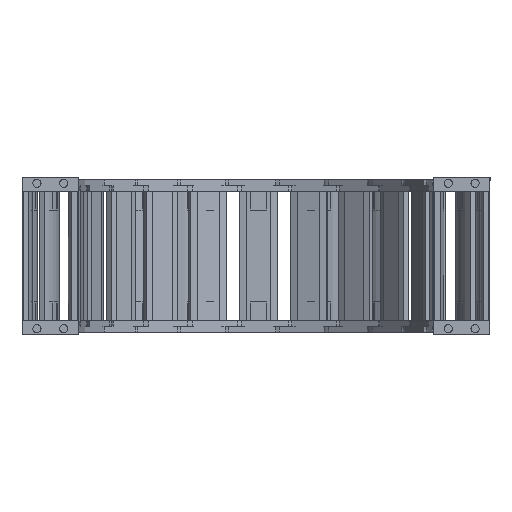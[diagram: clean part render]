
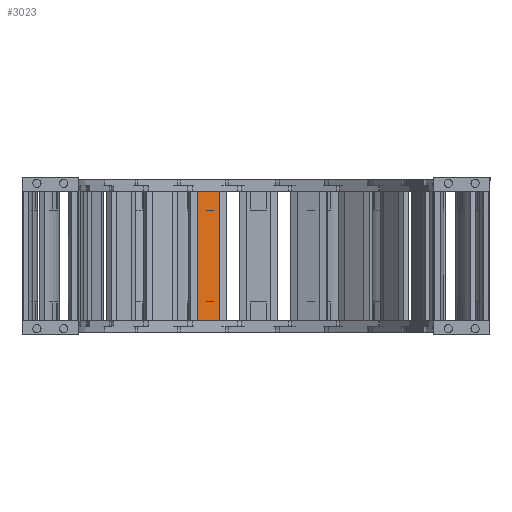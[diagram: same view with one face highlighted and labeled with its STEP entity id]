
A CAD part, left-side view. The second image highlights one B-rep face of the part: STEP entity #3023.
In plain terms, the highlighted planar face has unit normal (-0.963, -0.271, 0) as drawn and (0, 1, 0) by its records, which use the part's own axes.
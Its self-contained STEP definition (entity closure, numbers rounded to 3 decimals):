
#2766=DIRECTION('',(1.,0.,0.));
#2767=VECTOR('',#2766,23.);
#2768=CARTESIAN_POINT('',(-11.5,3.,112.9));
#2769=LINE('',#2768,#2767);
#2815=DIRECTION('',(0.,0.,-1.));
#2816=VECTOR('',#2815,125.4);
#2817=CARTESIAN_POINT('',(11.5,3.,112.9));
#2818=LINE('',#2817,#2816);
#2837=DIRECTION('',(-1.,0.,0.));
#2838=VECTOR('',#2837,23.);
#2839=CARTESIAN_POINT('',(11.5,3.,-12.5));
#2840=LINE('',#2839,#2838);
#2851=DIRECTION('',(0.,0.,-1.));
#2852=VECTOR('',#2851,125.4);
#2853=CARTESIAN_POINT('',(-11.5,3.,112.9));
#2854=LINE('',#2853,#2852);
#2878=CARTESIAN_POINT('',(11.5,3.,112.9));
#2879=VERTEX_POINT('',#2878);
#2882=CARTESIAN_POINT('',(-11.5,3.,112.9));
#2883=VERTEX_POINT('',#2882);
#2890=CARTESIAN_POINT('',(11.5,3.,-12.5));
#2891=VERTEX_POINT('',#2890);
#2892=CARTESIAN_POINT('',(-11.5,3.,-12.5));
#2893=VERTEX_POINT('',#2892);
#3011=CARTESIAN_POINT('',(15.5,3.,62.9));
#3012=DIRECTION('',(0.,1.,0.));
#3013=DIRECTION('',(-1.,0.,0.));
#3014=AXIS2_PLACEMENT_3D('',#3011,#3012,#3013);
#3015=PLANE('',#3014);
#3017=ORIENTED_EDGE('',*,*,#3016,.T.);
#3018=ORIENTED_EDGE('',*,*,#2995,.F.);
#3019=ORIENTED_EDGE('',*,*,#2975,.F.);
#3020=ORIENTED_EDGE('',*,*,#2907,.F.);
#3021=EDGE_LOOP('',(#3017,#3018,#3019,#3020));
#3022=FACE_OUTER_BOUND('',#3021,.F.);
#3023=ADVANCED_FACE('',(#3022),#3015,.T.);
#2907=EDGE_CURVE('',#2883,#2879,#2769,.T.);
#2975=EDGE_CURVE('',#2879,#2891,#2818,.T.);
#2995=EDGE_CURVE('',#2891,#2893,#2840,.T.);
#3016=EDGE_CURVE('',#2883,#2893,#2854,.T.);
